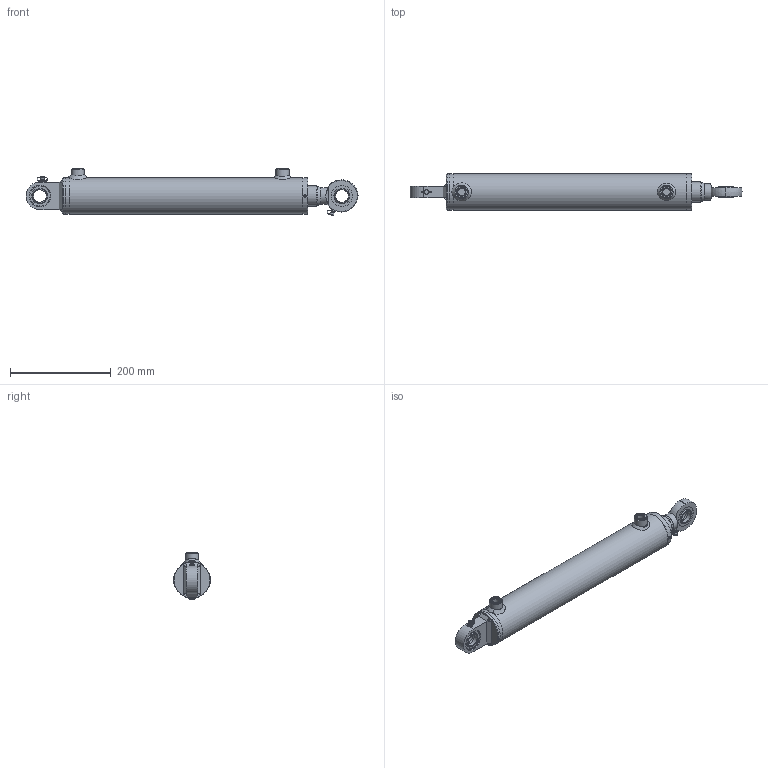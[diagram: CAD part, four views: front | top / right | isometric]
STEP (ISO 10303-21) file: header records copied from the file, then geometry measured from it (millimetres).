
FILE_DESCRIPTION( ( 'Unknown' ), '1' );
FILE_NAME( 'E:/LIBRERIA_3d/CILINDRI/HMB/HMB063400350.stp', 'Unknown', ( 'Unknown' ), ( 'Unknown' ), 'PSStep 17.0.49', 'Unknown', ' ' );
FILE_SCHEMA( ( 'AUTOMOTIVE_DESIGN { 1 0 10303 214 1 1 1 1 }' ) );
Length unit declared in the file: millimetre
Products named in the file (44): CT00063024; CSTSF025C0; tsc25c_CORPO; AN00006001; STL0630730350-oa7; Saldatura d'angolo 1-oa5; MAT_PRIMA_TUBO_FT07306300-oa6; CBSC220600; CG07306340; CSTSF025N0; An00006001; CSTS025N_CORPO; CSAI002042; CSAI002042-oa0; CSTS025N00; CGE0250000; APGR013000; HM0063400350; Saldatura con preparazione 1-oa3; Saldatura d'angolo 1-oa4; CBS0600000; CF00063073; CDA0002420; APG0600000; SBL0400630350; CSTS025C00; cge0250000; Assem1; CSCS004010; Saldatura d'angolo 1-oa1; Saldatura d'angolo 2-oa2
Assembly tree (33 placements, depth 4):
  Saldatura d'angolo 1-oa5
  Saldatura d'angolo 1-oa5
  Saldatura d'angolo 1-oa4
  Saldatura d'angolo 1-oa4
  Assem1
    CSCS004010
    APGR013000  x2
    CSTS025C00
      cge0250000
      APGR013000
      CSTSF025C0
        tsc25c_CORPO
        AN00006001
    CSTS025N00
      CGE0250000
      APGR013000
      CSTSF025N0
        An00006001
        CSTS025N_CORPO
        CSAI002042
        CSAI002042-oa0
    HM0063400350
      Saldatura con preparazione 1-oa3
      Saldatura con preparazione 1-oa3
      CBS0600000
      CF00063073
      CDA0002420
      APG0600000  x2
      SBL0400630350
      CG07306340
        CG07306340
      CT00063024
        CT00063024
      STL0630730350-oa7
        MAT_PRIMA_TUBO_FT07306300-oa6
        CBSC220600
Bounding box: 659.5 x 73 x 95.16 mm (x, y, z)
Volume: 1460227.8 mm3; surface area: 398748.3 mm2
Topology: 39 solids, 39 shells, 429 faces, 884 edges, 558 vertices
Faces by surface type: plane 174, cylinder 103, bspline 54, torus 46, cone 45, sphere 7
Full cylindrical faces by diameter (mm): 2 x4, 4 x1, 4.25 x1, 5 x12, 6 x4, 7 x2, 8 x4, 9 x4, 14.95 x2, 16 x2, 16.6 x2, 22 x2, 23.4 x1, 24 x5, 25 x4, 26 x2, 28.5 x1, 33.5 x3, 36 x1, 40 x6, 42 x9, 43 x1, 47 x1, 48 x1, 48.6 x1, 58 x1, 58.39 x2, 61.63 x2, 62.9 x1, 63 x1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
Entity records: 15980 total; most frequent: CARTESIAN_POINT 6164, DIRECTION 1434, ORIENTED_EDGE 1016, AXIS2_PLACEMENT_3D 648, EDGE_LOOP 630, FACE_OUTER_BOUND 509, EDGE_CURVE 508, VERTEX_POINT 422
